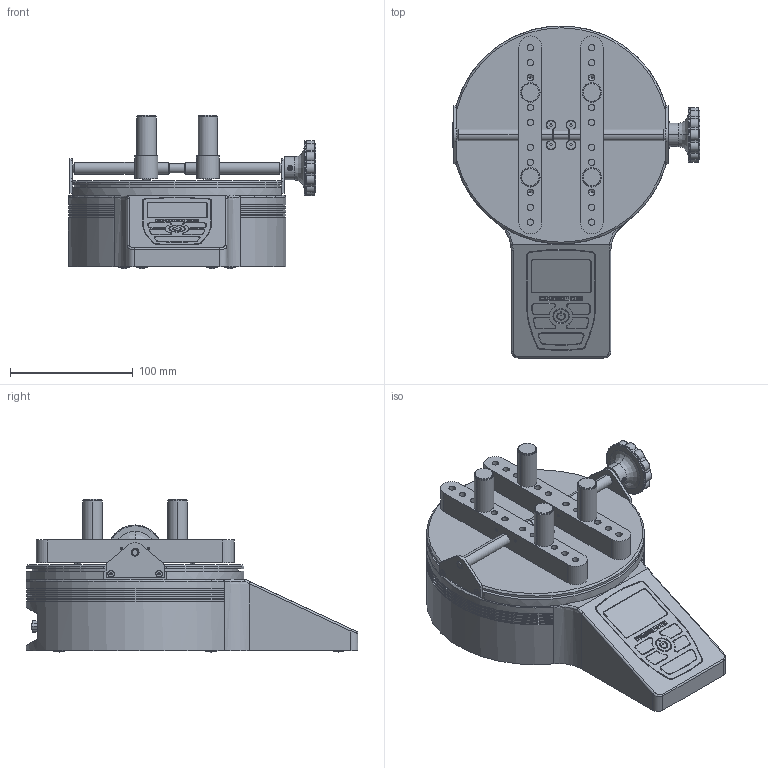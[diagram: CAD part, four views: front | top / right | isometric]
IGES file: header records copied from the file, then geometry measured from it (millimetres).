
Global section: file name: No Iges File Name specified; native system: Autodesk Inventor 2010; preprocessor: AutoDesk Inventor Iges Exporter R2010; author: mlampen; date: 20170405.160655; units: inch
Bounding box: 201.61 x 270.49 x 124.79 mm (x, y, z)
Volume: 2166351.8 mm3; surface area: 178607.8 mm2
Topology: 16 solids, 16 shells, 1412 faces, 3340 edges, 2056 vertices
Faces by surface type: plane 576, revolution 306, cylinder 201, bspline 187, cone 91, torus 31, sphere 20
